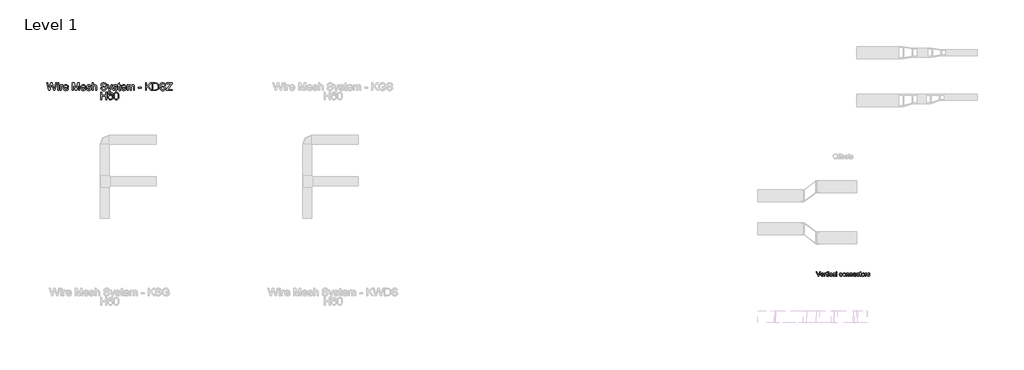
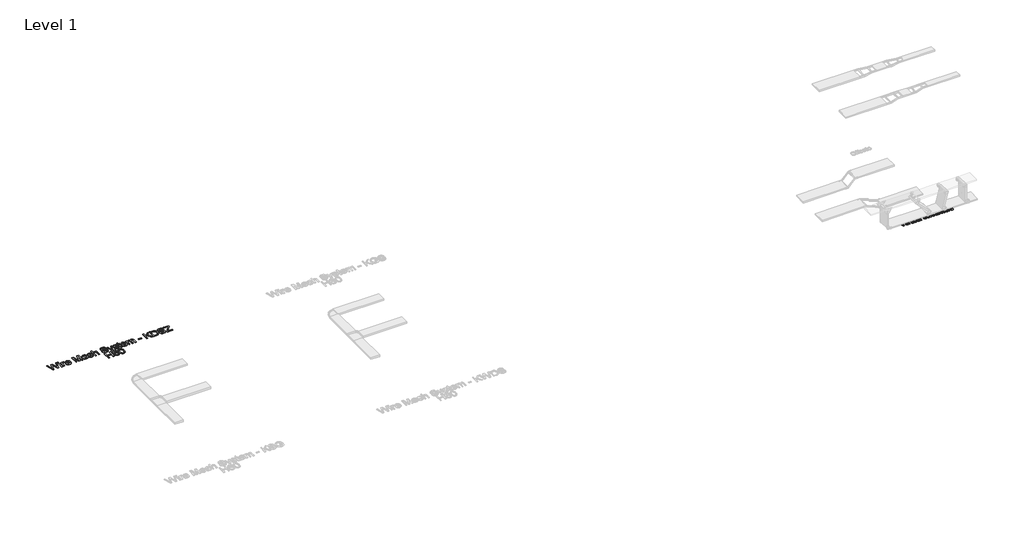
# One storey, part 53 of 106: 2 proxies.
"""IFC4 building model written with IfcOpenShell, lengths in millimetres."""

from ifc_helpers import new_model, si_unit, origin, origin_with_axes, place, context, project, spatial, polyline, outline, extrude, element, save

model = new_model("IFC4")

# Units and contexts
model_context = context("Model", 3, world=origin())
ifc_project = project(units=[si_unit("LENGTHUNIT", "METRE", prefix="MILLI")], contexts=[model_context])

# Site, building, storey
site = spatial("IfcSite", under=ifc_project)
building = spatial("IfcBuilding", under=site)
storey = spatial("IfcBuildingStorey", under=building, Name="Level 1", Elevation=0.0)

# Proxies
placement = place(None, origin())
element("IfcBuildingElementProxy", 1, Name="150mm Arial 2", ObjectType="150mm Arial 2", at=placement, inside=storey, context=model_context, shape_type="SweptSolid", body=[
    extrude(outline(polyline([(29188.5897513, 44647.8476348), (29128.624986, 44798.5321), (29148.7849194, 44798.5321), (29188.920845, 44689.9701232), (29197.0510371, 44665.5059705), (29205.0708646, 44689.9701232), (29245.3171549, 44798.5321), (29265.4770882, 44798.5321), (29208.0507088, 44647.8476348), (29188.5897513, 44647.8476348)])), origin_with_axes(), (0.0, 0.0, 1.0), 15.0),
    extrude(outline(polyline([(29358.1097746, 44680.8098615), (29376.5774508, 44678.4554168), (29369.9233852, 44664.5402803), (29359.3053911, 44654.1384169), (29344.9625918, 44647.6544967), (29327.1341106, 44645.49319), (29305.0335998, 44649.2225937), (29288.0282546, 44660.4108049), (29277.1849327, 44678.3312566), (29273.5704921, 44702.2573819), (29277.2217209, 44726.988249), (29288.1754073, 44745.4835163), (29304.9508263, 44757.0166168), (29326.0672529, 44760.8609837), (29346.5260903, 44757.0258139), (29362.8738465, 44745.5203045), (29373.5930081, 44727.0618254), (29377.166062, 44702.3677465), (29377.0556974, 44697.2909749), (29292.4060503, 44697.2909749), (29295.6664045, 44683.1918975), (29303.2401751, 44672.8268223), (29314.1708688, 44666.4532667), (29327.5019926, 44664.3287482), (29345.9696688, 44668.2650855), (29358.1097746, 44680.8098615)]), holes=[polyline([(29292.4060503, 44716.1265331), (29358.3305038, 44716.1265331), (29355.782921, 44726.0777411), (29350.7889229, 44733.1962577), (29339.8076454, 44739.8181336), (29325.9936765, 44742.0254255), (29313.2971491, 44740.2641905), (29302.7987167, 44734.9804853), (29295.5008576, 44726.7445272), (29292.4060503, 44716.1265331)])]), origin_with_axes(), (0.0, 0.0, 1.0), 15.0),
    extrude(outline(polyline([(29506.6605243, 44663.556196), (29509.0149691, 44647.2958118), (29494.9250886, 44645.49319), (29479.142951, 44648.620187), (29471.2702763, 44656.8239555), (29468.989408, 44678.1978994), (29468.989408, 44739.6709808), (29454.8627394, 44739.6709808), (29454.8627394, 44755.0484482), (29454.8627394, 44758.5065389), (29468.989408, 44758.5065389), (29468.989408, 44785.3987128), (29487.8249661, 44796.4719608), (29487.8249661, 44758.5065389), (29506.6605243, 44758.5065389), (29506.6605243, 44739.6709808), (29487.8249661, 44739.6709808), (29487.8249661, 44678.7497224), (29488.8182475, 44669.0376377), (29492.037215, 44665.597941), (29498.4567558, 44664.3287482), (29506.6605243, 44663.556196)])), origin_with_axes(), (0.0, 0.0, 1.0), 15.0),
    extrude(outline(polyline([(29396.0016201, 44647.8476348), (29396.0016201, 44758.5065389), (29412.4827335, 44758.5065389), (29412.4827335, 44742.1357901), (29424.181381, 44757.2189519), (29435.9536048, 44760.8609837), (29454.8627394, 44755.0484482), (29448.5719572, 44738.1626646), (29435.3282054, 44742.0254255), (29424.6780217, 44738.3098174), (29417.8905988, 44728.0091215), (29414.8371783, 44706.0097782), (29414.8371783, 44647.8476348), (29396.0016201, 44647.8476348)])), origin_with_axes(), (0.0, 0.0, 1.0), 15.0),
    extrude(outline(polyline([(29525.4960824, 44779.6965419), (29525.4960824, 44798.5321), (29544.3316406, 44798.5321), (29544.3316406, 44779.6965419), (29525.4960824, 44779.6965419)])), origin_with_axes(), (0.0, 0.0, 1.0), 15.0),
    extrude(outline(polyline([(29525.4960824, 44647.8476348), (29525.4960824, 44758.5065389), (29544.3316406, 44758.5065389), (29544.3316406, 44647.8476348), (29525.4960824, 44647.8476348)])), origin_with_axes(), (0.0, 0.0, 1.0), 15.0),
    extrude(outline(polyline([(29643.2183209, 44687.8731959), (29662.053879, 44685.5187511), (29656.8023636, 44668.7663247), (29646.933929, 44656.1065856), (29633.3774775, 44648.1465389), (29617.061911, 44645.49319), (29597.0261379, 44649.1950026), (29581.3589634, 44660.3004403), (29571.2468071, 44678.3220596), (29567.8760883, 44702.7724167), (29569.3154266, 44719.5340401), (29573.6334415, 44734.0607803), (29580.8991109, 44745.7916175), (29591.1814127, 44754.1655314), (29603.4824669, 44759.1871206), (29616.8043936, 44760.8609837), (29632.7198885, 44758.5617212), (29645.444007, 44751.6639338), (29654.572079, 44740.5355035), (29659.6994343, 44725.5443122), (29640.8638761, 44723.1898674), (29632.1266787, 44737.2981419), (29616.9515464, 44742.0254255), (29604.7792509, 44739.6985719), (29595.11775, 44732.7180111), (29588.8131723, 44720.7066639), (29586.7116464, 44703.2874515), (29588.7671871, 44685.6337142), (29594.933809, 44673.5809803), (29604.420566, 44666.6418062), (29616.4365116, 44664.3287482), (29626.189983, 44665.772685), (29634.1868179, 44670.1044955), (29640.003952, 44677.4345442), (29643.2183209, 44687.8731959)])), origin_with_axes(), (0.0, 0.0, 1.0), 15.0),
    extrude(outline(polyline([(29749.1683355, 44661.9743034), (29730.9029944, 44649.2087982), (29710.724667, 44645.49319), (29694.9839161, 44647.7280731), (29683.3726407, 44654.4327225), (29676.2127373, 44664.6138567), (29673.8261029, 44677.2781944), (29677.4313464, 44692.1774152), (29686.9043078, 44702.9931459), (29700.0928773, 44709.1735634), (29716.3900497, 44712.0062547), (29749.0579709, 44718.4809779), (29749.1683355, 44722.6748326), (29747.8715515, 44731.0809362), (29743.9811994, 44736.580772), (29735.2807902, 44740.6642622), (29723.1590784, 44742.0254255), (29704.1027911, 44738.4017879), (29695.0161058, 44725.5443122), (29676.1805477, 44727.8987569), (29684.3291339, 44746.2928567), (29700.7366708, 44757.0717991), (29725.5870996, 44760.8609837), (29748.4141774, 44757.5132575), (29761.3084413, 44749.107154), (29767.0841887, 44736.3232546), (29768.0038937, 44719.8421412), (29768.0038937, 44696.4080581), (29768.9603868, 44663.6849547), (29772.7127832, 44647.8476348), (29753.877225, 44647.8476348), (29749.1683355, 44661.9743034)]), holes=[polyline([(29749.1683355, 44699.6454197), (29718.7812827, 44693.8696724), (29702.5760808, 44690.8162518), (29695.236835, 44685.8498449), (29692.661661, 44678.6025696), (29698.2718615, 44668.4122383), (29714.7345808, 44664.3287482), (29733.7908681, 44668.8353026), (29746.0781267, 44679.7430038), (29749.0579709, 44694.3111308), (29749.1683355, 44699.6454197)])]), origin_with_axes(), (0.0, 0.0, 1.0), 15.0),
    extrude(outline(polyline([(29793.9027861, 44647.8476348), (29793.9027861, 44798.5321), (29812.7383443, 44798.5321), (29812.7383443, 44647.8476348), (29793.9027861, 44647.8476348)])), origin_with_axes(), (0.0, 0.0, 1.0), 15.0),
    extrude(outline(polyline([(29970.4861438, 44687.8731959), (29989.321702, 44685.5187511), (29984.0701865, 44668.7663247), (29974.201752, 44656.1065856), (29960.6453004, 44648.1465389), (29944.3297339, 44645.49319), (29924.2939608, 44649.1950026), (29908.6267863, 44660.3004403), (29898.51463, 44678.3220596), (29895.1439112, 44702.7724167), (29896.5832495, 44719.5340401), (29900.9012644, 44734.0607803), (29908.1669338, 44745.7916175), (29918.4492356, 44754.1655314), (29930.7502898, 44759.1871206), (29944.0722165, 44760.8609837), (29959.9877114, 44758.5617212), (29972.7118299, 44751.6639338), (29981.8399019, 44740.5355035), (29986.9672572, 44725.5443122), (29968.131699, 44723.1898674), (29959.3945016, 44737.2981419), (29944.2193693, 44742.0254255), (29932.0470738, 44739.6985719), (29922.3855729, 44732.7180111), (29916.0809952, 44720.7066639), (29913.9794693, 44703.2874515), (29916.03501, 44685.6337142), (29922.2016319, 44673.5809803), (29931.6883889, 44666.6418062), (29943.7043346, 44664.3287482), (29953.457806, 44665.772685), (29961.4546408, 44670.1044955), (29967.2717749, 44677.4345442), (29970.4861438, 44687.8731959)])), origin_with_axes(), (0.0, 0.0, 1.0), 15.0),
    extrude(outline(polyline([(30001.0939258, 44703.1770869), (30005.1682189, 44729.8577286), (30017.3910982, 44748.6105133), (30032.4926541, 44757.7983661), (30050.5740542, 44760.8609837), (30070.361507, 44757.13158), (30086.1666372, 44745.9433688), (30096.5271139, 44728.179267), (30099.9806061, 44704.7221912), (30098.4538958, 44685.693495), (30093.873765, 44671.2081415), (30086.3735708, 44660.3602211), (30076.0866705, 44652.2438246), (30063.8683898, 44647.1808487), (30050.5740542, 44645.49319), (30030.547478, 44649.2087982), (30014.7607419, 44660.3556226), (30004.5106298, 44678.492205), (30001.0939258, 44703.1770869)]), holes=[polyline([(30019.929484, 44703.2138751), (30022.1091848, 44686.1671431), (30028.6482872, 44674.0224387), (30038.4891306, 44666.7521708), (30050.5740542, 44664.3287482), (30062.6037954, 44666.7659664), (30072.4262447, 44674.077621), (30078.9653471, 44686.3832738), (30081.145048, 44703.8024862), (30078.9515516, 44720.3525775), (30072.3710624, 44732.331735), (30062.5348175, 44739.6020029), (30050.5740542, 44742.0254255), (30038.4891306, 44739.6112), (30028.6482872, 44732.3685232), (30022.1091848, 44720.25141), (30019.929484, 44703.2138751)])]), origin_with_axes(), (0.0, 0.0, 1.0), 15.0),
    extrude(outline(polyline([(30121.170609, 44647.8476348), (30121.170609, 44758.5065389), (30140.0061672, 44758.5065389), (30140.0061672, 44743.0554951), (30154.4087473, 44756.4096116), (30174.0720399, 44760.8609837), (30191.8591344, 44757.2741342), (30203.9992402, 44747.8563552), (30209.6462289, 44734.0055981), (30210.6395103, 44715.7954393), (30210.6395103, 44647.8476348), (30191.8039521, 44647.8476348), (30191.8039521, 44713.2570535), (30189.6334483, 44729.9221079), (30181.9631087, 44738.7328817), (30169.0320566, 44742.0254255), (30158.0001953, 44740.1768185), (30148.5962118, 44734.6309974), (30142.1536783, 44723.9164343), (30140.0061672, 44706.5616012), (30140.0061672, 44647.8476348), (30121.170609, 44647.8476348)])), origin_with_axes(), (0.0, 0.0, 1.0), 15.0),
    extrude(outline(polyline([(30236.5384027, 44647.8476348), (30236.5384027, 44758.5065389), (30255.3739609, 44758.5065389), (30255.3739609, 44743.0554951), (30269.776541, 44756.4096116), (30289.4398336, 44760.8609837), (30307.2269281, 44757.2741342), (30319.3670339, 44747.8563552), (30325.0140226, 44734.0055981), (30326.0073039, 44715.7954393), (30326.0073039, 44647.8476348), (30307.1717458, 44647.8476348), (30307.1717458, 44713.2570535), (30305.001242, 44729.9221079), (30297.3309024, 44738.7328817), (30284.3998503, 44742.0254255), (30273.367989, 44740.1768185), (30263.9640055, 44734.6309974), (30257.521472, 44723.9164343), (30255.3739609, 44706.5616012), (30255.3739609, 44647.8476348), (30236.5384027, 44647.8476348)])), origin_with_axes(), (0.0, 0.0, 1.0), 15.0),
    extrude(outline(polyline([(30429.3821446, 44680.8098615), (30447.8498207, 44678.4554168), (30441.1957552, 44664.5402803), (30430.5777611, 44654.1384169), (30416.2349618, 44647.6544967), (30398.4064806, 44645.49319), (30376.3059697, 44649.2225937), (30359.3006245, 44660.4108049), (30348.4573027, 44678.3312566), (30344.8428621, 44702.2573819), (30348.4940909, 44726.988249), (30359.4477773, 44745.4835163), (30376.2231963, 44757.0166168), (30397.3396228, 44760.8609837), (30417.7984603, 44757.0258139), (30434.1462164, 44745.5203045), (30444.8653781, 44727.0618254), (30448.4384319, 44702.3677465), (30448.3280673, 44697.2909749), (30363.6784202, 44697.2909749), (30366.9387744, 44683.1918975), (30374.512545, 44672.8268223), (30385.4432388, 44666.4532667), (30398.7743626, 44664.3287482), (30417.2420387, 44668.2650855), (30429.3821446, 44680.8098615)]), holes=[polyline([(30363.6784202, 44716.1265331), (30429.6028738, 44716.1265331), (30427.055291, 44726.0777411), (30422.0612929, 44733.1962577), (30411.0800153, 44739.8181336), (30397.2660464, 44742.0254255), (30384.569519, 44740.2641905), (30374.0710866, 44734.9804853), (30366.7732275, 44726.7445272), (30363.6784202, 44716.1265331)])]), origin_with_axes(), (0.0, 0.0, 1.0), 15.0),
    extrude(outline(polyline([(30537.9073332, 44687.8731959), (30556.7428913, 44685.5187511), (30551.4913758, 44668.7663247), (30541.6229413, 44656.1065856), (30528.0664898, 44648.1465389), (30511.7509233, 44645.49319), (30491.7151501, 44649.1950026), (30476.0479757, 44660.3004403), (30465.9358193, 44678.3220596), (30462.5651006, 44702.7724167), (30464.0044389, 44719.5340401), (30468.3224538, 44734.0607803), (30475.5881232, 44745.7916175), (30485.8704249, 44754.1655314), (30498.1714792, 44759.1871206), (30511.4934059, 44760.8609837), (30527.4089007, 44758.5617212), (30540.1330192, 44751.6639338), (30549.2610912, 44740.5355035), (30554.3884465, 44725.5443122), (30535.5528884, 44723.1898674), (30526.815691, 44737.2981419), (30511.6405587, 44742.0254255), (30499.4682632, 44739.6985719), (30489.8067623, 44732.7180111), (30483.5021846, 44720.7066639), (30481.4006587, 44703.2874515), (30483.4561994, 44685.6337142), (30489.6228213, 44673.5809803), (30499.1095782, 44666.6418062), (30511.1255239, 44664.3287482), (30520.8789953, 44665.772685), (30528.8758302, 44670.1044955), (30534.6929642, 44677.4345442), (30537.9073332, 44687.8731959)])), origin_with_axes(), (0.0, 0.0, 1.0), 15.0),
    extrude(outline(polyline([(30613.2495658, 44663.556196), (30615.6040105, 44647.2958118), (30601.5141301, 44645.49319), (30585.7319925, 44648.620187), (30577.8593178, 44656.8239555), (30575.5784495, 44678.1978994), (30575.5784495, 44739.6709808), (30561.4517809, 44739.6709808), (30561.4517809, 44758.5065389), (30575.5784495, 44758.5065389), (30575.5784495, 44785.3987128), (30594.4140076, 44796.4719608), (30594.4140076, 44758.5065389), (30613.2495658, 44758.5065389), (30613.2495658, 44739.6709808), (30594.4140076, 44739.6709808), (30594.4140076, 44678.7497224), (30595.407289, 44669.0376377), (30598.6262565, 44665.597941), (30605.0457973, 44664.3287482), (30613.2495658, 44663.556196)])), origin_with_axes(), (0.0, 0.0, 1.0), 15.0),
    extrude(outline(polyline([(30627.3762344, 44703.1770869), (30631.4505275, 44729.8577286), (30643.6734068, 44748.6105133), (30658.7749627, 44757.7983661), (30676.8563627, 44760.8609837), (30696.6438156, 44757.13158), (30712.4489458, 44745.9433688), (30722.8094225, 44728.179267), (30726.2629147, 44704.7221912), (30724.7362044, 44685.693495), (30720.1560736, 44671.2081415), (30712.6558794, 44660.3602211), (30702.3689791, 44652.2438246), (30690.1506983, 44647.1808487), (30676.8563627, 44645.49319), (30656.8297866, 44649.2087982), (30641.0430505, 44660.3556226), (30630.7929384, 44678.492205), (30627.3762344, 44703.1770869)]), holes=[polyline([(30646.2117925, 44703.2138751), (30648.3914934, 44686.1671431), (30654.9305958, 44674.0224387), (30664.7714392, 44666.7521708), (30676.8563627, 44664.3287482), (30688.886104, 44666.7659664), (30698.7085533, 44674.077621), (30705.2476557, 44686.3832738), (30707.4273565, 44703.8024862), (30705.2338601, 44720.3525775), (30698.653371, 44732.331735), (30688.8171261, 44739.6020029), (30676.8563627, 44742.0254255), (30664.7714392, 44739.6112), (30654.9305958, 44732.3685232), (30648.3914934, 44720.25141), (30646.2117925, 44703.2138751)])]), origin_with_axes(), (0.0, 0.0, 1.0), 15.0),
    extrude(outline(polyline([(30747.4529176, 44647.8476348), (30747.4529176, 44758.5065389), (30763.934031, 44758.5065389), (30763.934031, 44742.1357901), (30775.6326784, 44757.2189519), (30787.4049023, 44760.8609837), (30806.3140368, 44755.0484482), (30800.0232547, 44738.1626646), (30786.7795029, 44742.0254255), (30776.1293191, 44738.3098174), (30769.3418963, 44728.0091215), (30766.2884758, 44706.0097782), (30766.2884758, 44647.8476348), (30747.4529176, 44647.8476348)])), origin_with_axes(), (0.0, 0.0, 1.0), 15.0),
    extrude(outline(polyline([(30811.0229264, 44680.8098615), (30829.8584845, 44683.1643063), (30832.8291316, 44675.1076906), (30838.5772878, 44669.1847905), (30858.5532802, 44664.3287482), (30877.7567203, 44668.7801203), (30884.0107142, 44679.227969), (30882.4380187, 44684.028829), (30877.7199321, 44687.6892549), (30858.332551, 44693.060332), (30829.9688491, 44702.275776), (30817.58962, 44713.0363243), (30813.3773712, 44728.2298507), (30816.7618855, 44742.2645488), (30825.9957236, 44752.988309), (30837.9702825, 44758.5617212), (30854.1754844, 44760.8609837), (30877.0945327, 44757.1637696), (30891.6626597, 44747.1573794), (30898.1373828, 44730.2532017), (30879.3018247, 44727.8987569), (30872.2200963, 44738.2914233), (30855.6470124, 44742.0254255), (30837.6207946, 44738.4569702), (30832.2129293, 44730.1428371), (30834.4570095, 44724.6613954), (30841.4835556, 44720.5043288), (30857.7071516, 44716.4944151), (30885.3534835, 44707.628459), (30898.1925651, 44697.5852805), (30902.8462724, 44681.2145317), (30897.3832248, 44663.188314), (30881.6194813, 44650.1101091), (30858.2957628, 44645.49319), (30839.3038548, 44647.7188761), (30825.4439006, 44654.3959343), (30816.1916684, 44665.4507882), (30811.0229264, 44680.8098615)])), origin_with_axes(), (0.0, 0.0, 1.0), 15.0),
])
element("IfcBuildingElementProxy", 2, Name="250mm Arial 3", ObjectType="250mm Arial 3", at=placement, inside=storey, context=model_context, shape_type="SweptSolid", body=[
    extrude(outline(polyline([(3710.2659596, 50803.1379564), (3641.7785948, 51054.2787318), (3674.1522104, 51054.2787318), (3713.8834659, 50889.2223433), (3726.146199, 50838.2706869), (3739.2673235, 50883.3362313), (3789.0540202, 51054.2787318), (3835.7137199, 51054.2787318), (3871.8887828, 50930.3638131), (3887.3858118, 50884.3785637), (3898.8054821, 50838.2706869), (3910.7003333, 50887.7508153), (3950.7994708, 51054.2787318), (3983.1730863, 51054.2787318), (3914.6244079, 50803.1379564), (3881.0858327, 50803.1379564), (3820.8758128, 50996.8891405), (3812.4758406, 51023.9284672), (3803.033536, 50991.3709106), (3748.1578051, 50803.1379564), (3710.2659596, 50803.1379564)])), origin_with_axes(), (0.0, 0.0, 1.0), 15.0),
    extrude(outline(polyline([(4010.6416086, 51022.8861348), (4010.6416086, 51054.2787318), (4042.0342056, 51054.2787318), (4042.0342056, 51022.8861348), (4010.6416086, 51022.8861348)])), origin_with_axes(), (0.0, 0.0, 1.0), 15.0),
    extrude(outline(polyline([(4010.6416086, 50803.1379564), (4010.6416086, 50987.5694633), (4042.0342056, 50987.5694633), (4042.0342056, 50803.1379564), (4010.6416086, 50803.1379564)])), origin_with_axes(), (0.0, 0.0, 1.0), 15.0),
    extrude(outline(polyline([(4089.1231009, 50803.1379564), (4089.1231009, 50987.5694633), (4116.5916233, 50987.5694633), (4116.5916233, 50960.284882), (4126.739035, 50976.1038078), (4136.089369, 50985.423485), (4155.7097421, 50991.4935379), (4171.3447269, 50989.0716481), (4187.2249663, 50981.8059787), (4176.7403295, 50953.6630061), (4154.6674098, 50960.100941), (4145.2940831, 50958.5527709), (4136.9171035, 50953.9082608), (4125.6047321, 50936.7404343), (4120.5156979, 50900.0748621), (4120.5156979, 50803.1379564), (4089.1231009, 50803.1379564)])), origin_with_axes(), (0.0, 0.0, 1.0), 15.0),
    extrude(outline(polyline([(4335.9719197, 50858.075001), (4366.75138, 50854.1509264), (4355.6612707, 50830.9590323), (4337.9646139, 50813.6225933), (4314.0599484, 50802.8160597), (4284.3458131, 50799.2138818), (4264.8672278, 50800.7678), (4247.5116283, 50805.4295547), (4232.2790144, 50813.1991458), (4219.1693862, 50824.0765733), (4208.6272678, 50837.759101), (4201.0971832, 50853.9439928), (4196.5791325, 50872.6312485), (4195.0731156, 50893.8208682), (4196.5944609, 50915.7290074), (4201.1584969, 50935.0389801), (4208.7652236, 50951.7507861), (4219.4146409, 50965.8644256), (4232.4897802, 50977.0771622), (4247.3736725, 50985.0862598), (4264.0663181, 50989.8917184), (4282.5677167, 50991.4935379), (4300.4732232, 50989.8955505), (4316.6657792, 50985.1015883), (4331.1453846, 50977.1116512), (4343.9120394, 50965.9257393), (4354.3334466, 50951.8427566), (4361.7773088, 50935.1616074), (4366.2436262, 50915.8822916), (4367.7323986, 50894.0048092), (4367.5484576, 50885.5435233), (4226.4657125, 50885.5435233), (4231.8996361, 50862.0450609), (4244.5225871, 50844.7699355), (4262.74041, 50834.1473429), (4284.9589497, 50830.6064787), (4301.6669237, 50832.2466193), (4315.73841, 50837.1670409), (4327.1734087, 50845.6743121), (4335.9719197, 50858.075001)]), holes=[polyline([(4226.4657125, 50916.9361202), (4336.3398017, 50916.9361202), (4332.0938303, 50933.5214669), (4323.7705002, 50945.3856612), (4305.4683709, 50956.4221211), (4282.4450894, 50960.100941), (4261.2842105, 50957.1655493), (4243.7868231, 50948.359374), (4231.6237246, 50934.632777), (4226.4657125, 50916.9361202)])]), origin_with_axes(), (0.0, 0.0, 1.0), 15.0),
    extrude(outline(polyline([(4501.1509355, 50803.1379564), (4501.1509355, 51054.2787318), (4555.1682752, 51054.2787318), (4606.5491272, 50877.2661784), (4616.9111367, 50840.2940379), (4628.1315375, 50880.3318617), (4678.6539982, 51054.2787318), (4732.6713378, 51054.2787318), (4732.6713378, 50803.1379564), (4701.2787409, 50803.1379564), (4701.2787409, 51022.8861348), (4638.1869788, 50803.1379564), (4595.6352946, 50803.1379564), (4532.5435325, 51022.8861348), (4532.5435325, 50803.1379564), (4501.1509355, 50803.1379564)])), origin_with_axes(), (0.0, 0.0, 1.0), 15.0),
    extrude(outline(polyline([(4912.8108882, 50858.075001), (4943.5903484, 50854.1509264), (4932.5002391, 50830.9590323), (4914.8035823, 50813.6225933), (4890.8989168, 50802.8160597), (4861.1847815, 50799.2138818), (4841.7061963, 50800.7678), (4824.3505967, 50805.4295547), (4809.1179829, 50813.1991458), (4796.0083547, 50824.0765733), (4785.4662363, 50837.759101), (4777.9361517, 50853.9439928), (4773.4181009, 50872.6312485), (4771.912084, 50893.8208682), (4773.4334293, 50915.7290074), (4777.9974653, 50935.0389801), (4785.604192, 50951.7507861), (4796.2536093, 50965.8644256), (4809.3287486, 50977.0771622), (4824.212641, 50985.0862598), (4840.9052865, 50989.8917184), (4859.4066852, 50991.4935379), (4877.3121917, 50989.8955505), (4893.5047476, 50985.1015883), (4907.984353, 50977.1116512), (4920.7510079, 50965.9257393), (4931.172415, 50951.8427566), (4938.6162773, 50935.1616074), (4943.0825946, 50915.8822916), (4944.5713671, 50894.0048092), (4944.3874261, 50885.5435233), (4803.3046809, 50885.5435233), (4808.7386046, 50862.0450609), (4821.3615555, 50844.7699355), (4839.5793785, 50834.1473429), (4861.7979182, 50830.6064787), (4878.5058921, 50832.2466193), (4892.5773784, 50837.1670409), (4904.0123771, 50845.6743121), (4912.8108882, 50858.075001)]), holes=[polyline([(4803.3046809, 50916.9361202), (4913.1787701, 50916.9361202), (4908.9327988, 50933.5214669), (4900.6094686, 50945.3856612), (4882.3073394, 50956.4221211), (4859.2840579, 50960.100941), (4838.1231789, 50957.1655493), (4820.6257915, 50948.359374), (4808.4626931, 50934.632777), (4803.3046809, 50916.9361202)])]), origin_with_axes(), (0.0, 0.0, 1.0), 15.0),
    extrude(outline(polyline([(4964.1917401, 50858.075001), (4995.5843371, 50861.9990756), (5000.5354156, 50848.5713828), (5010.1156759, 50838.6998826), (5024.3864316, 50832.6298297), (5043.4089964, 50830.6064787), (5062.201635, 50832.4612171), (5075.41473, 50838.0254323), (5083.2322224, 50846.0881793), (5085.8380532, 50855.4385134), (5083.216894, 50863.4399468), (5075.3534164, 50869.5406565), (5043.0411144, 50878.4924517), (4995.7682781, 50893.851525), (4983.804449, 50901.5693827), (4975.1362295, 50911.7857723), (4969.8709184, 50923.8492361), (4968.1158148, 50937.1083163), (4973.756672, 50960.4994798), (4989.1464021, 50978.3724134), (5009.1040004, 50987.6614338), (5036.1126702, 50991.4935379), (5056.5454493, 50989.9530321), (5074.311084, 50985.3315145), (5088.5971682, 50978.0811735), (5098.5912957, 50968.6541974), (5105.2131716, 50956.3531432), (5109.3825009, 50940.4805679), (5077.989904, 50936.5564933), (5074.0275083, 50946.4356577), (5066.1870233, 50953.8776039), (5054.3918068, 50958.5451067), (5038.5652168, 50960.100941), (5020.5389991, 50958.6140846), (5008.5215206, 50954.1535154), (5001.7616889, 50947.7155805), (4999.5084117, 50940.2966269), (5003.2485453, 50931.1608907), (5014.9594555, 50924.2324465), (5041.9987821, 50917.5492569), (5088.076002, 50902.7726634), (5100.2467647, 50895.7062634), (5109.4744714, 50886.0340326), (5115.2916055, 50873.7253142), (5117.2306501, 50858.7494513), (5114.9543803, 50843.2677507), (5108.1255708, 50828.7057551), (5097.0048046, 50816.2054314), (5081.8526649, 50806.9087468), (5063.5505357, 50801.137598), (5042.9798008, 50799.2138818), (5011.3266208, 50802.9233586), (4988.2266972, 50814.0517889), (4972.8063102, 50832.4765455), (4964.1917401, 50858.075001)])), origin_with_axes(), (0.0, 0.0, 1.0), 15.0),
    extrude(outline(polyline([(5152.5473217, 50803.1379564), (5152.5473217, 51054.2787318), (5183.9399186, 51054.2787318), (5183.9399186, 50961.940351), (5195.4707199, 50974.8698703), (5208.4193997, 50984.1052412), (5222.785958, 50989.6464637), (5238.5703949, 50991.4935379), (5257.531646, 50989.4778512), (5273.8257528, 50983.4307909), (5286.6556373, 50973.8275379), (5295.2242221, 50961.1432733), (5300.0526733, 50943.7148638), (5301.6621571, 50919.8791762), (5301.6621571, 50803.1379564), (5270.2695601, 50803.1379564), (5270.2695601, 50916.6295519), (5267.7710282, 50936.2805818), (5260.2754326, 50949.7389315), (5248.1966404, 50957.5104386), (5231.948519, 50960.100941), (5218.6817745, 50958.3535015), (5206.2274361, 50953.1111831), (5195.9114119, 50944.8798235), (5189.0596097, 50934.1652603), (5185.2198414, 50919.9251614), (5183.9399186, 50901.1171944), (5183.9399186, 50803.1379564), (5152.5473217, 50803.1379564)])), origin_with_axes(), (0.0, 0.0, 1.0), 15.0),
    extrude(outline(polyline([(5435.080694, 50889.4675979), (5466.4732909, 50889.4675979), (5470.0754688, 50872.0468526), (5476.5900458, 50858.0443442), (5486.7527859, 50846.9312422), (5501.2994531, 50838.1787164), (5519.0804162, 50832.4995381), (5538.9460439, 50830.6064787), (5556.4357671, 50832.0396856), (5571.7488552, 50836.3393065), (5584.1572083, 50843.1451234), (5592.9327267, 50852.0969186), (5598.1520525, 50862.3746218), (5599.8918278, 50873.1581628), (5594.6801662, 50892.7478791), (5586.7400465, 50900.4963936), (5573.3430105, 50907.0033064), (5527.6336726, 50918.990128), (5478.4294557, 50934.4718287), (5462.8021351, 50945.0331076), (5451.7273543, 50957.8323354), (5445.128471, 50972.5936004), (5442.9288432, 50989.0409913), (5445.6496371, 51007.4274268), (5453.8120189, 51024.5722607), (5467.2013907, 51039.1035995), (5485.6031546, 51049.64955), (5507.6914028, 51056.0644923), (5532.140227, 51058.2028064), (5558.6277307, 51055.9648576), (5581.8042964, 51049.2510112), (5600.8421896, 51038.1992229), (5614.9136759, 51022.9474485), (5623.8194859, 51004.4460498), (5627.3603501, 50983.6453887), (5595.9677532, 50983.6453887), (5590.2042686, 51002.3767136), (5578.1867901, 51015.8963769), (5559.4094799, 51024.0817513), (5533.3665003, 51026.8102095), (5506.7103841, 51024.1124082), (5488.4235833, 51016.0190043), (5477.8469759, 51004.1088247), (5474.3214401, 50989.9606963), (5476.819972, 50977.8972325), (5484.3155677, 50968.1943449), (5502.0352171, 50959.5184612), (5535.5737923, 50950.6586365), (5591.1239736, 50934.9010243), (5609.0198998, 50923.5120109), (5621.504895, 50909.455853), (5628.8395423, 50892.8858348), (5631.2844247, 50873.9552405), (5628.4716603, 50854.6031147), (5620.033367, 50836.4006201), (5606.3144343, 50820.7349785), (5587.6597515, 50808.9934115), (5565.226614, 50801.6587642), (5540.1723173, 50799.2138818), (5509.4158496, 50801.8503694), (5484.1009698, 50809.7598323), (5463.936438, 50822.9729273), (5448.6310141, 50841.5203112), (5438.8054992, 50864.1143971), (5435.080694, 50889.4675979)])), origin_with_axes(), (0.0, 0.0, 1.0), 15.0),
    extrude(outline(polyline([(5674.4492455, 50732.5046133), (5670.5251709, 50762.7322506), (5686.466724, 50759.9731356), (5701.3659448, 50763.4373577), (5710.501681, 50773.0942601), (5719.0855942, 50796.2095122), (5721.5381409, 50803.8124067), (5654.8288724, 50987.5694633), (5687.938252, 50987.5694633), (5723.3162372, 50885.1756413), (5735.640284, 50844.2181125), (5747.9643309, 50880.3931754), (5784.3233347, 50987.5694633), (5817.1874596, 50987.5694633), (5752.9920515, 50798.7233725), (5736.3147344, 50757.7658437), (5727.7768064, 50744.6907044), (5718.1045756, 50735.6316103), (5706.8688463, 50730.3433066), (5693.6404229, 50728.5805387), (5674.4492455, 50732.5046133)])), origin_with_axes(), (0.0, 0.0, 1.0), 15.0),
    extrude(outline(polyline([(5831.4122301, 50858.075001), (5862.804827, 50861.9990756), (5867.7559055, 50848.5713828), (5877.3361658, 50838.6998826), (5891.6069216, 50832.6298297), (5910.6294864, 50830.6064787), (5929.422125, 50832.4612171), (5942.63522, 50838.0254323), (5950.4527124, 50846.0881793), (5953.0585432, 50855.4385134), (5950.437384, 50863.4399468), (5942.5739063, 50869.5406565), (5910.2616044, 50878.4924517), (5862.988768, 50893.851525), (5851.024939, 50901.5693827), (5842.3567195, 50911.7857723), (5837.0914084, 50923.8492361), (5835.3363047, 50937.1083163), (5840.977162, 50960.4994798), (5856.3668921, 50978.3724134), (5876.3244904, 50987.6614338), (5903.3331602, 50991.4935379), (5923.7659393, 50989.9530321), (5941.531574, 50985.3315145), (5955.8176581, 50978.0811735), (5965.8117857, 50968.6541974), (5972.4336616, 50956.3531432), (5976.6029909, 50940.4805679), (5945.2103939, 50936.5564933), (5941.2479983, 50946.4356577), (5933.4075133, 50953.8776039), (5921.6122968, 50958.5451067), (5905.7857068, 50960.100941), (5887.759489, 50958.6140846), (5875.7420105, 50954.1535154), (5868.9821789, 50947.7155805), (5866.7289016, 50940.2966269), (5870.4690353, 50931.1608907), (5882.1799454, 50924.2324465), (5909.2192721, 50917.5492569), (5955.296492, 50902.7726634), (5967.4672547, 50895.7062634), (5976.6949614, 50886.0340326), (5982.5120954, 50873.7253142), (5984.4511401, 50858.7494513), (5982.1748703, 50843.2677507), (5975.3460607, 50828.7057551), (5964.2252946, 50816.2054314), (5949.0731549, 50806.9087468), (5930.7710256, 50801.137598), (5910.2002907, 50799.2138818), (5878.5471107, 50802.9233586), (5855.4471871, 50814.0517889), (5840.0268002, 50832.4765455), (5831.4122301, 50858.075001)])), origin_with_axes(), (0.0, 0.0, 1.0), 15.0),
    extrude(outline(polyline([(6086.4770801, 50829.3188917), (6090.4011547, 50802.2182514), (6066.9180207, 50799.2138818), (6051.8501873, 50800.5167972), (6040.614458, 50804.4255434), (6027.4933335, 50818.0984909), (6023.6918863, 50853.7217307), (6023.6918863, 50956.1768664), (6000.1474386, 50956.1768664), (6000.1474386, 50987.5694633), (6023.6918863, 50987.5694633), (6023.6918863, 51032.3897531), (6055.0844832, 51050.8451665), (6055.0844832, 50987.5694633), (6086.4770801, 50987.5694633), (6086.4770801, 50956.1768664), (6055.0844832, 50956.1768664), (6055.0844832, 50854.6414357), (6056.7399522, 50838.4546279), (6062.1048979, 50832.7218002), (6072.8041326, 50830.6064787), (6086.4770801, 50829.3188917)])), origin_with_axes(), (0.0, 0.0, 1.0), 15.0),
    extrude(outline(polyline([(6246.9962573, 50858.075001), (6277.7757176, 50854.1509264), (6266.6856083, 50830.9590323), (6248.9889515, 50813.6225933), (6225.084286, 50802.8160597), (6195.3701507, 50799.2138818), (6175.8915654, 50800.7678), (6158.5359659, 50805.4295547), (6143.303352, 50813.1991458), (6130.1937239, 50824.0765733), (6119.6516054, 50837.759101), (6112.1215208, 50853.9439928), (6107.6034701, 50872.6312485), (6106.0974532, 50893.8208682), (6107.6187985, 50915.7290074), (6112.1828345, 50935.0389801), (6119.7895612, 50951.7507861), (6130.4389785, 50965.8644256), (6143.5141178, 50977.0771622), (6158.3980102, 50985.0862598), (6175.0906557, 50989.8917184), (6193.5920544, 50991.4935379), (6211.4975608, 50989.8955505), (6227.6901168, 50985.1015883), (6242.1697222, 50977.1116512), (6254.9363771, 50965.9257393), (6265.3577842, 50951.8427566), (6272.8016464, 50935.1616074), (6277.2679638, 50915.8822916), (6278.7567362, 50894.0048092), (6278.5727952, 50885.5435233), (6137.4900501, 50885.5435233), (6142.9239737, 50862.0450609), (6155.5469247, 50844.7699355), (6173.7647477, 50834.1473429), (6195.9832873, 50830.6064787), (6212.6912613, 50832.2466193), (6226.7627476, 50837.1670409), (6238.1977463, 50845.6743121), (6246.9962573, 50858.075001)]), holes=[polyline([(6137.4900501, 50916.9361202), (6247.3641393, 50916.9361202), (6243.118168, 50933.5214669), (6234.7948378, 50945.3856612), (6216.4927086, 50956.4221211), (6193.469427, 50960.100941), (6172.3085481, 50957.1655493), (6154.8111607, 50948.359374), (6142.6480622, 50934.632777), (6137.4900501, 50916.9361202)])]), origin_with_axes(), (0.0, 0.0, 1.0), 15.0),
    extrude(outline(polyline([(6310.1493332, 50803.1379564), (6310.1493332, 50987.5694633), (6341.5419301, 50987.5694633), (6341.5419301, 50957.2191987), (6350.9842346, 50971.1603935), (6363.1243405, 50982.0818902), (6377.5483804, 50989.140626), (6393.8424871, 50991.4935379), (6411.3015534, 50989.0946407), (6425.2963977, 50981.8979492), (6435.7503777, 50970.3786442), (6442.5868514, 50955.0119067), (6454.0295143, 50970.9726204), (6467.0816609, 50982.3731301), (6481.7432913, 50989.213436), (6498.0144054, 50991.4935379), (6521.6125025, 50987.6997549), (6539.0639047, 50976.3184056), (6549.8474456, 50957.0429219), (6553.4419593, 50929.5667354), (6553.4419593, 50803.1379564), (6522.0493624, 50803.1379564), (6522.0493624, 50916.0777289), (6519.1369633, 50942.2893211), (6508.5910127, 50955.1958477), (6490.6567655, 50960.100941), (6473.6498874, 50956.9586156), (6459.7853347, 50947.5316395), (6450.5652922, 50931.1762191), (6447.4919447, 50907.248561), (6447.4919447, 50803.1379564), (6416.0993478, 50803.1379564), (6416.0993478, 50919.5726079), (6414.2829304, 50937.3229141), (6408.8336784, 50949.9841861), (6399.2457539, 50957.5717523), (6385.0133192, 50960.100941), (6372.9191986, 50958.4148152), (6361.7754398, 50953.3564378), (6352.5783899, 50945.048436), (6346.324396, 50933.6134374), (6341.5419301, 50896.1507875), (6341.5419301, 50803.1379564), (6310.1493332, 50803.1379564)])), origin_with_axes(), (0.0, 0.0, 1.0), 15.0),
    extrude(outline(polyline([(6682.9364216, 50877.6953741), (6682.9364216, 50909.087971), (6781.038287, 50909.087971), (6781.038287, 50877.6953741), (6682.9364216, 50877.6953741)])), origin_with_axes(), (0.0, 0.0, 1.0), 15.0),
    extrude(outline(polyline([(6918.3808985, 50803.1379564), (6918.3808985, 51054.2787318), (6949.7734954, 51054.2787318), (6949.7734954, 50931.3448317), (7078.5321938, 51054.2787318), (7122.4327785, 51054.2787318), (7014.3367856, 50951.0265185), (7126.3568531, 50803.1379564), (7087.9744983, 50803.1379564), (6992.0799249, 50929.8119901), (6949.7734954, 50889.4675979), (6949.7734954, 50803.1379564), (6918.3808985, 50803.1379564)])), origin_with_axes(), (0.0, 0.0, 1.0), 15.0),
    extrude(outline(polyline([(7149.9013008, 50803.1379564), (7149.9013008, 51054.2787318), (7236.5375107, 51054.2787318), (7281.3578004, 51050.6612255), (7301.3767123, 51043.686796), (7318.2686273, 51032.6963214), (7335.6357231, 51013.5664576), (7348.0057552, 50989.7767553), (7355.4093804, 50961.7870668), (7357.8772554, 50930.0572447), (7356.206458, 50903.1022244), (7351.1940658, 50879.3814999), (7343.5605144, 50859.1863112), (7334.0262394, 50842.8078982), (7311.0949284, 50820.0298713), (7281.0818889, 50807.429913), (7240.70684, 50803.1379564), (7149.9013008, 50803.1379564)]), holes=[polyline([(7181.2938977, 50834.5305533), (7236.844079, 50834.5305533), (7277.2497848, 50839.0677646), (7300.5489778, 50851.8823208), (7311.4551462, 50865.470962), (7319.6481848, 50883.0603198), (7324.7755401, 50904.7270365), (7326.4846585, 50930.5477541), (7323.1353995, 50964.7607796), (7313.0876225, 50990.0220099), (7298.2420512, 51007.3737774), (7280.4994091, 51017.8584142), (7262.4425345, 51021.6292047), (7235.9856877, 51022.8861348), (7181.2938977, 51022.8861348), (7181.2938977, 50834.5305533)])]), origin_with_axes(), (0.0, 0.0, 1.0), 15.0),
    extrude(outline(polyline([(7389.2698523, 50889.4675979), (7420.6624493, 50889.4675979), (7424.2646271, 50872.0468526), (7430.7792041, 50858.0443442), (7440.9419443, 50846.9312422), (7455.4886115, 50838.1787164), (7473.2695746, 50832.4995381), (7493.1352023, 50830.6064787), (7510.6249255, 50832.0396856), (7525.9380136, 50836.3393065), (7538.3463667, 50843.1451234), (7547.1218851, 50852.0969186), (7552.3412109, 50862.3746218), (7554.0809862, 50873.1581628), (7548.8693246, 50892.7478791), (7540.9292049, 50900.4963936), (7527.5321689, 50907.0033064), (7481.822831, 50918.990128), (7432.6186141, 50934.4718287), (7416.9912935, 50945.0331076), (7405.9165126, 50957.8323354), (7399.3176293, 50972.5936004), (7397.1180016, 50989.0409913), (7399.8387955, 51007.4274268), (7408.0011773, 51024.5722607), (7421.3905491, 51039.1035995), (7439.792313, 51049.64955), (7461.8805611, 51056.0644923), (7486.3293854, 51058.2028064), (7512.8168891, 51055.9648576), (7535.9934548, 51049.2510112), (7555.031348, 51038.1992229), (7569.1028343, 51022.9474485), (7578.0086443, 51004.4460498), (7581.5495085, 50983.6453887), (7550.1569116, 50983.6453887), (7544.393427, 51002.3767136), (7532.3759485, 51015.8963769), (7513.5986383, 51024.0817513), (7487.5556587, 51026.8102095), (7460.8995425, 51024.1124082), (7442.6127416, 51016.0190043), (7432.0361343, 51004.1088247), (7428.5105985, 50989.9606963), (7431.0091304, 50977.8972325), (7438.504726, 50968.1943449), (7456.2243755, 50959.5184612), (7489.7629507, 50950.6586365), (7545.313132, 50934.9010243), (7563.2090582, 50923.5120109), (7575.6940534, 50909.455853), (7583.0287007, 50892.8858348), (7585.4735831, 50873.9552405), (7582.6608187, 50854.6031147), (7574.2225254, 50836.4006201), (7560.5035927, 50820.7349785), (7541.8489098, 50808.9934115), (7519.4157724, 50801.6587642), (7494.3614756, 50799.2138818), (7463.605008, 50801.8503694), (7438.2901282, 50809.7598323), (7418.1255963, 50822.9729273), (7402.8201725, 50841.5203112), (7392.9946576, 50864.1143971), (7389.2698523, 50889.4675979)])), origin_with_axes(), (0.0, 0.0, 1.0), 15.0),
    extrude(outline(polyline([(7612.9421054, 50803.1379564), (7612.9421054, 50835.695513), (7741.3942354, 50992.9650659), (7765.7970744, 51022.8861348), (7628.6384039, 51022.8861348), (7628.6384039, 51054.2787318), (7805.2217616, 51054.2787318), (7805.2217616, 51022.8861348), (7664.6295257, 50850.7786748), (7651.3857739, 50834.5305533), (7809.1458362, 50834.5305533), (7809.1458362, 50803.1379564), (7612.9421054, 50803.1379564)])), origin_with_axes(), (0.0, 0.0, 1.0), 15.0),
    extrude(outline(polyline([(5437.0427313, 50498.2009118), (5437.0427313, 50749.3416872), (5468.4353282, 50749.3416872), (5468.4353282, 50647.3157472), (5601.8538651, 50647.3157472), (5601.8538651, 50749.3416872), (5633.246462, 50749.3416872), (5633.246462, 50498.2009118), (5601.8538651, 50498.2009118), (5601.8538651, 50615.9231502), (5468.4353282, 50615.9231502), (5468.4353282, 50498.2009118), (5437.0427313, 50498.2009118)])), origin_with_axes(), (0.0, 0.0, 1.0), 15.0),
    extrude(outline(polyline([(5837.298342, 50682.6324187), (5805.9057451, 50678.7083441), (5800.8473677, 50694.2666868), (5794.0108939, 50704.8892794), (5779.770795, 50714.6841375), (5762.5569833, 50717.9490902), (5747.9643309, 50716.0483666), (5734.2300697, 50710.3461957), (5722.4348532, 50698.3363814), (5712.8009435, 50681.8046842), (5706.2940307, 50658.4211849), (5703.8798051, 50625.8559641), (5716.4720992, 50640.5482513), (5731.5629252, 50650.9025966), (5748.3092202, 50657.0416274), (5765.8679213, 50659.087971), (5794.8692853, 50653.493099), (5819.2108106, 50636.708483), (5828.8408882, 50624.7025008), (5835.7195151, 50611.0640422), (5841.2224166, 50578.8896961), (5838.6319143, 50556.4105733), (5830.8604071, 50535.5715911), (5818.5516887, 50517.8979269), (5802.3495525, 50504.9147582), (5782.9897625, 50496.9363174), (5761.2080827, 50494.2768372), (5742.4940022, 50496.0396051), (5725.592507, 50501.3279087), (5710.5035971, 50510.1417482), (5697.2272724, 50522.4811235), (5686.4034943, 50538.8672007), (5678.6722242, 50559.821146), (5674.0334622, 50585.3429594), (5672.4872082, 50615.4326409), (5674.2039908, 50649.1666534), (5679.3543388, 50677.9572517), (5687.938252, 50701.8044356), (5699.9557305, 50720.7082052), (5712.9810524, 50733.2353536), (5728.0833747, 50742.1833167), (5745.2626975, 50747.5520945), (5764.5190207, 50749.3416872), (5792.064185, 50744.9117748), (5814.1217763, 50731.6220377), (5829.5728201, 50710.5148082), (5837.298342, 50682.6324187)]), holes=[polyline([(5703.8798051, 50579.3802054), (5705.6962225, 50565.4696674), (5711.1454745, 50552.1875946), (5719.6067604, 50540.7679243), (5730.4592793, 50532.4445942), (5743.5574111, 50527.3632241), (5758.7555361, 50525.6694341), (5779.4718909, 50529.1796415), (5795.7583334, 50539.7102636), (5806.3119481, 50556.2649534), (5809.8298197, 50577.8473637), (5806.3579334, 50598.5637186), (5795.9422744, 50614.3596518), (5779.3799204, 50624.3614435), (5757.4679491, 50627.6953741), (5736.7822511, 50624.3614435), (5719.4841331, 50614.3596518), (5707.7808871, 50598.946929), (5703.8798051, 50579.3802054)])]), origin_with_axes(), (0.0, 0.0, 1.0), 15.0),
    extrude(outline(polyline([(5868.690939, 50621.7479485), (5870.9978656, 50661.9467207), (5877.9186457, 50694.0061037), (5889.3843012, 50718.4166069), (5905.3258543, 50735.6687397), (5925.8582682, 50745.9234503), (5951.0965059, 50749.3416872), (5970.4409675, 50747.3183362), (5987.7620781, 50741.2482833), (6002.2474316, 50731.3691189), (6013.0846221, 50717.9184334), (6027.7999019, 50680.7623519), (6032.0765301, 50655.0489333), (6033.5020728, 50621.7479485), (6031.2181387, 50581.7791026), (6024.3663366, 50549.7963616), (6012.9696589, 50525.3628658), (5997.0510984, 50508.0417552), (5976.4726993, 50497.7180667), (5951.0965059, 50494.2768372), (5933.8060521, 50495.7713578), (5918.4776356, 50500.2549196), (5905.1112565, 50507.7275226), (5893.7069146, 50518.1891669), (5882.7624253, 50537.1006007), (5874.9449329, 50560.6642089), (5870.2544374, 50588.8799915), (5868.690939, 50621.7479485)]), holes=[polyline([(5900.0835359, 50621.8092622), (5903.7623558, 50572.4287685), (5908.3608808, 50555.5387696), (5914.7988157, 50543.848936), (5931.2308781, 50530.2143096), (5951.0965059, 50525.6694341), (5970.9621336, 50530.229638), (5987.3941961, 50543.9102497), (5993.832131, 50555.6192438), (5998.4306559, 50572.5054106), (6002.1094759, 50621.8092622), (5998.5532832, 50670.0784456), (5994.1080425, 50686.912879), (5987.8847054, 50698.8805402), (5971.4832998, 50713.1819527), (5950.7286239, 50717.9490902), (5931.077594, 50713.7491041), (5915.289325, 50701.1491458), (5908.6367923, 50688.1199918), (5903.8849832, 50670.5536265), (5900.0835359, 50621.8092622)])]), origin_with_axes(), (0.0, 0.0, 1.0), 15.0),
])

save(model, "model.ifc")
